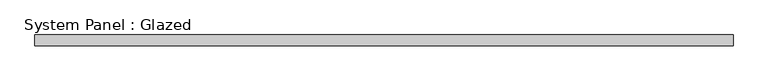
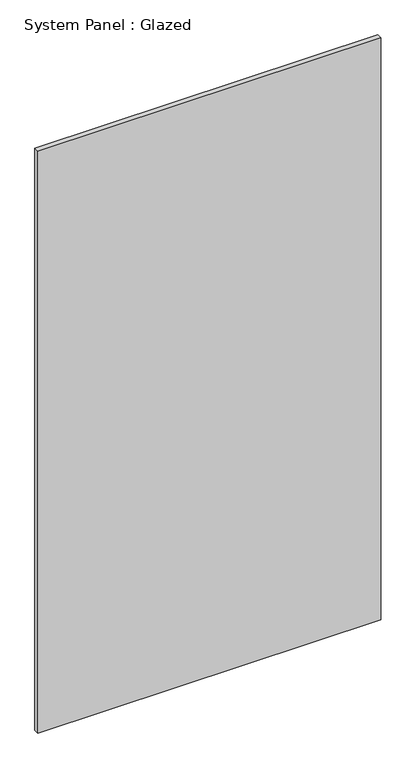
"""IFC4 building model written with IfcOpenShell, lengths in millimetres: plate geometry, System Panel : Glazed."""

from ifc_helpers import new_model, si_unit, origin, origin_with_axes, place, context, project, spatial, polyline, outline, extrude, source, transform, mapped, element, save


def system_panel_glazed_6720194d(model_context):
    return source(origin(), model_context, "Body", "SweptSolid", [
        extrude(outline(polyline([(818.2499999, 19.05), (-818.2499999, 19.05), (-818.2499999, 44.45), (818.2499999, 44.45), (818.2499999, 19.05)])), origin_with_axes(), (0.0, 0.0, 1.0), 2936.5),
    ])


if __name__ == "__main__":
    model = new_model("IFC4")
    model_context = context("Model", 3, world=origin())
    ifc_project = project(units=[si_unit("LENGTHUNIT", "METRE", prefix="MILLI")], contexts=[model_context])
    site = spatial("IfcSite", under=ifc_project)
    building = spatial("IfcBuilding", under=site)
    placement = place(None, origin())
    system_panel_glazed_shape = system_panel_glazed_6720194d(model_context)
    element("IfcPlate", 1, ObjectType="System Panel : Glazed", at=placement, inside=building, context=model_context, shape_type="MappedRepresentation", body=[
        mapped(system_panel_glazed_shape, transform((0.0, 0.0, 0.0), x_axis=(1.0, 0.0, 0.0), y_axis=(0.0, 1.0, 0.0), z_axis=(0.0, 0.0, 1.0))),
    ])
    save(model, "model.ifc")
